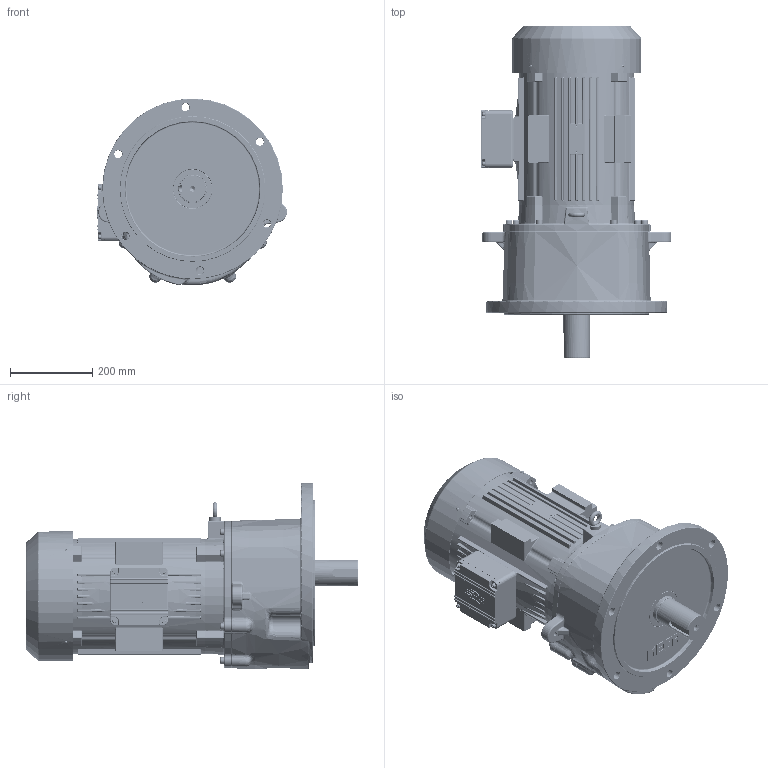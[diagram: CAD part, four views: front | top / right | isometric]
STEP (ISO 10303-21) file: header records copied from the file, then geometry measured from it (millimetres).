
FILE_DESCRIPTION(/* description */ (''),/* implementation_level */ '2;1');
FILE_NAME(/* name */ 'Z:\동력 3D 파일\PMK235_15kW_3D.stp',/* time_stamp */ '2021-12-01T15:56:29+09:00',/* author */ ('jaebok'),/* organization */ (''),/* preprocessor_version */ 'ST-DEVELOPER v18.1',/* originating_system */ 'Autodesk Inventor 2022',/* authorisation */ '');
FILE_SCHEMA (('AUTOMOTIVE_DESIGN { 1 0 10303 214 3 1 1 }'));
Products named in the file (1): 부품34
Bounding box: 462.82 x 809.2 x 455.2 mm (x, y, z)
Volume: 17981386.9 mm3; surface area: 2766669.4 mm2
Topology: 3 solids, 22 shells, 6384 faces, 16132 edges, 9642 vertices
Faces by surface type: cylinder 1776, plane 1775, bspline 1674, torus 618, sphere 312, cone 229
Full cylindrical faces by diameter (mm): 3.242 x4, 4.134 x4, 4.917 x9, 5 x16, 6 x4, 6.5 x8, 6.647 x9, 7 x4, 8 x4, 8.376 x1, 9.5 x4, 10 x17, 10.106 x10, 12 x9, 13 x8, 13.2 x1, 13.835 x2, 15 x1, 16 x8, 19 x6, 20 x1, 28 x1, 34 x1, 37 x1, 40 x1, 50 x1, 55 x1, 65 x1, 68 x2, 70 x5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
Entity records: 236965 total; most frequent: CARTESIAN_POINT 86446, ORIENTED_EDGE 31582, DIRECTION 27761, EDGE_CURVE 15791, AXIS2_PLACEMENT_3D 10577, VERTEX_POINT 9658, EDGE_LOOP 6933, LINE 6607
